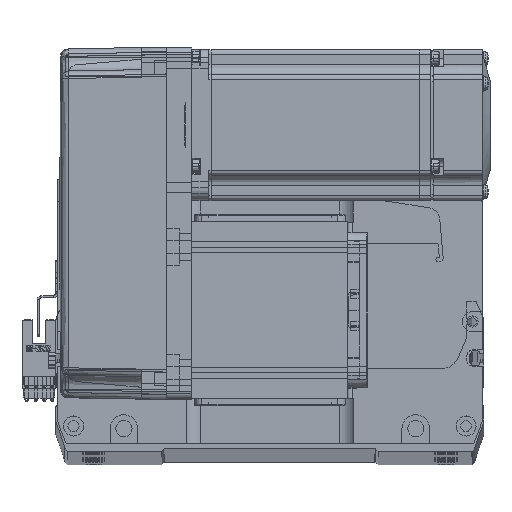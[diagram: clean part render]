
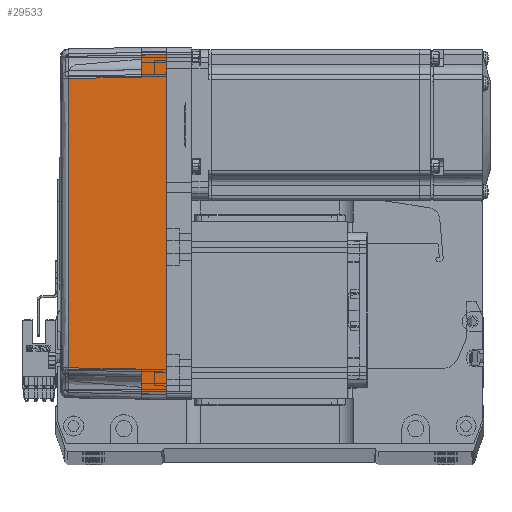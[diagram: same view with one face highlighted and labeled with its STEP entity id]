
A CAD part, top view. The second image highlights one B-rep face of the part: STEP entity #29533.
In plain terms, the highlighted planar face has unit normal (-0.018, 0, 1) as drawn and (0, 1, 0.017) by its records, which use the part's own axes.
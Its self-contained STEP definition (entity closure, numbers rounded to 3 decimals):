
#3654 = PLANE ( 'NONE',  #33668 ) ;
#4073 = CARTESIAN_POINT ( 'NONE',  ( 66.826, 35.825, 10. ) ) ;
#5682 = VECTOR ( 'NONE', #70740, 1000. ) ;
#7134 = VECTOR ( 'NONE', #13897, 1000. ) ;
#7823 = DIRECTION ( 'NONE',  ( 0.017, -0.017, 1. ) ) ;
#9532 = DIRECTION ( 'NONE',  ( 0., 1., 0.017 ) ) ;
#9986 = LINE ( 'NONE', #14790, #66230 ) ;
#10253 = EDGE_CURVE ( 'NONE', #10910, #11571, #14718, .T. ) ;
#10402 = DIRECTION ( 'NONE',  ( 1., 0., 0. ) ) ;
#10910 = VERTEX_POINT ( 'NONE', #61144 ) ;
#11571 = VERTEX_POINT ( 'NONE', #13471 ) ;
#13471 = CARTESIAN_POINT ( 'NONE',  ( 57.495, 35.32, 38.985 ) ) ;
#13897 = DIRECTION ( 'NONE',  ( 1., 0., 0. ) ) ;
#14133 = ORIENTED_EDGE ( 'NONE', *, *, #60542, .T. ) ;
#14718 = B_SPLINE_CURVE_WITH_KNOTS ( 'NONE', 3,
 ( #58717, #69326, #30328, #52906 ),
 .UNSPECIFIED., .F., .F.,
 ( 4, 4 ),
 ( 0., 1. ),
 .UNSPECIFIED. ) ;
#14790 = CARTESIAN_POINT ( 'NONE',  ( 57.495, 35.32, 38.985 ) ) ;
#15055 = DIRECTION ( 'NONE',  ( 0., -0.017, 1. ) ) ;
#15739 = DIRECTION ( 'NONE',  ( 0.017, 0.017, -1. ) ) ;
#17233 = CARTESIAN_POINT ( 'NONE',  ( 67.001, 36.001, -0.052 ) ) ;
#18193 = LINE ( 'NONE', #60186, #45860 ) ;
#20386 = CARTESIAN_POINT ( 'NONE',  ( 70., 35.825, 10. ) ) ;
#20479 = EDGE_CURVE ( 'NONE', #68213, #53330, #28116, .T. ) ;
#20510 = CARTESIAN_POINT ( 'NONE',  ( 58., 35.825, 10. ) ) ;
#22926 = ORIENTED_EDGE ( 'NONE', *, *, #10253, .T. ) ;
#24840 = LINE ( 'NONE', #17233, #45541 ) ;
#28116 = LINE ( 'NONE', #54073, #5682 ) ;
#28213 = EDGE_CURVE ( 'NONE', #29172, #69676, #18193, .T. ) ;
#29172 = VERTEX_POINT ( 'NONE', #30395 ) ;
#29533 = ADVANCED_FACE ( 'NONE', ( #46439 ), #3654, .T. ) ;
#30328 = CARTESIAN_POINT ( 'NONE',  ( 19.165, 35.316, 39.181 ) ) ;
#30395 = CARTESIAN_POINT ( 'NONE',  ( -67., 36., 0. ) ) ;
#31073 = EDGE_LOOP ( 'NONE', ( #44296, #70718, #61960, #22926, #39043, #14133, #59046, #54771 ) ) ;
#32752 = EDGE_CURVE ( 'NONE', #11571, #61403, #9986, .T. ) ;
#33668 = AXIS2_PLACEMENT_3D ( 'NONE', #59081, #9532, #15055 ) ;
#35187 = DIRECTION ( 'NONE',  ( 0.017, -0.017, 1. ) ) ;
#39043 = ORIENTED_EDGE ( 'NONE', *, *, #32752, .T. ) ;
#40280 = CARTESIAN_POINT ( 'NONE',  ( -67., 36., 0. ) ) ;
#40663 = LINE ( 'NONE', #40280, #69258 ) ;
#41568 = VECTOR ( 'NONE', #7823, 1000. ) ;
#42472 = CARTESIAN_POINT ( 'NONE',  ( -58., 35.825, 10. ) ) ;
#44296 = ORIENTED_EDGE ( 'NONE', *, *, #70992, .T. ) ;
#45541 = VECTOR ( 'NONE', #61982, 1000. ) ;
#45860 = VECTOR ( 'NONE', #10402, 1000. ) ;
#46439 = FACE_OUTER_BOUND ( 'NONE', #31073, .T. ) ;
#47031 = VERTEX_POINT ( 'NONE', #4073 ) ;
#47199 = CARTESIAN_POINT ( 'NONE',  ( 67., 36., 0. ) ) ;
#52906 = CARTESIAN_POINT ( 'NONE',  ( 57.495, 35.32, 38.985 ) ) ;
#52907 = EDGE_CURVE ( 'NONE', #53330, #10910, #68459, .T. ) ;
#53330 = VERTEX_POINT ( 'NONE', #42472 ) ;
#54073 = CARTESIAN_POINT ( 'NONE',  ( 70., 35.825, 10. ) ) ;
#54771 = ORIENTED_EDGE ( 'NONE', *, *, #28213, .F. ) ;
#56324 = EDGE_CURVE ( 'NONE', #69676, #47031, #24840, .T. ) ;
#58717 = CARTESIAN_POINT ( 'NONE',  ( -57.495, 35.32, 38.985 ) ) ;
#59046 = ORIENTED_EDGE ( 'NONE', *, *, #56324, .F. ) ;
#59081 = CARTESIAN_POINT ( 'NONE',  ( 70., 36., 0. ) ) ;
#60186 = CARTESIAN_POINT ( 'NONE',  ( 0., 36., 0. ) ) ;
#60542 = EDGE_CURVE ( 'NONE', #61403, #47031, #65712, .T. ) ;
#61144 = CARTESIAN_POINT ( 'NONE',  ( -57.495, 35.32, 38.985 ) ) ;
#61403 = VERTEX_POINT ( 'NONE', #20510 ) ;
#61960 = ORIENTED_EDGE ( 'NONE', *, *, #52907, .T. ) ;
#61982 = DIRECTION ( 'NONE',  ( -0.017, -0.017, 1. ) ) ;
#65712 = LINE ( 'NONE', #20386, #7134 ) ;
#66068 = CARTESIAN_POINT ( 'NONE',  ( -66.826, 35.825, 10. ) ) ;
#66230 = VECTOR ( 'NONE', #15739, 1000. ) ;
#68213 = VERTEX_POINT ( 'NONE', #66068 ) ;
#68459 = LINE ( 'NONE', #68993, #41568 ) ;
#68993 = CARTESIAN_POINT ( 'NONE',  ( -58., 35.825, 10. ) ) ;
#69258 = VECTOR ( 'NONE', #35187, 1000. ) ;
#69326 = CARTESIAN_POINT ( 'NONE',  ( -19.165, 35.316, 39.181 ) ) ;
#69676 = VERTEX_POINT ( 'NONE', #47199 ) ;
#70718 = ORIENTED_EDGE ( 'NONE', *, *, #20479, .T. ) ;
#70740 = DIRECTION ( 'NONE',  ( 1., 0., 0. ) ) ;
#70992 = EDGE_CURVE ( 'NONE', #29172, #68213, #40663, .T. ) ;
